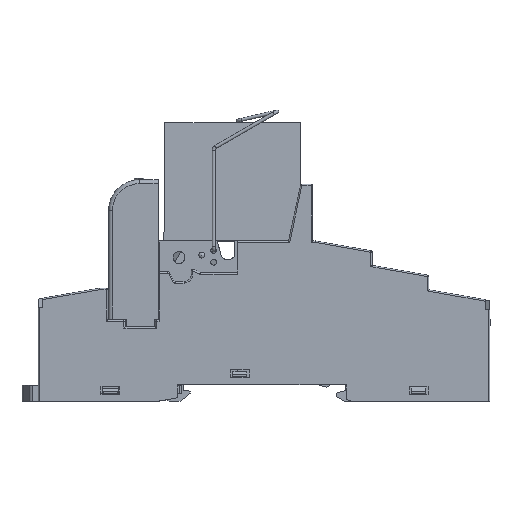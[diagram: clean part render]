
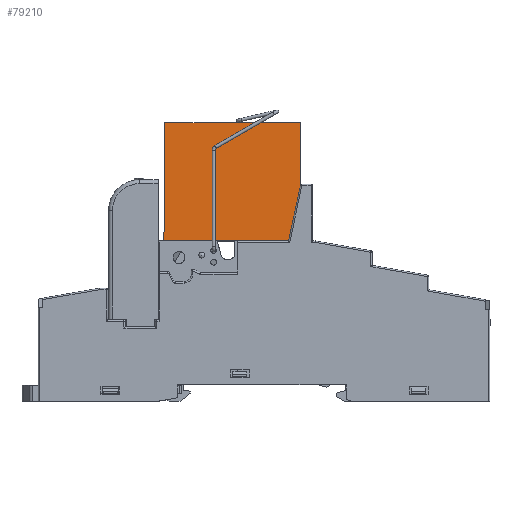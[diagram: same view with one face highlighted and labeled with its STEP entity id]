
A CAD part, top view. The second image highlights one B-rep face of the part: STEP entity #79210.
In plain terms, the highlighted planar face has unit normal (0, 0.009, 1) as drawn and (0, -1, -0.009) by its records, which use the part's own axes.
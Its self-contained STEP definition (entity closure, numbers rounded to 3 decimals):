
#7188=LINE('',#115651,#14363);
#7196=LINE('',#115671,#14371);
#7197=LINE('',#115673,#14372);
#7198=LINE('',#115675,#14373);
#14363=VECTOR('',#98223,1000.);
#14371=VECTOR('',#98239,1000.);
#14372=VECTOR('',#98242,1000.);
#14373=VECTOR('',#98243,1000.);
#32488=ORIENTED_EDGE('',*,*,#41130,.T.);
#32489=ORIENTED_EDGE('',*,*,#41139,.F.);
#32490=ORIENTED_EDGE('',*,*,#41140,.T.);
#32491=ORIENTED_EDGE('',*,*,#41141,.F.);
#41130=EDGE_CURVE('',#46657,#46658,#7188,.T.);
#41139=EDGE_CURVE('',#46664,#46658,#7196,.T.);
#41140=EDGE_CURVE('',#46664,#46665,#7197,.T.);
#41141=EDGE_CURVE('',#46657,#46665,#7198,.T.);
#46657=VERTEX_POINT('',#115652);
#46658=VERTEX_POINT('',#115653);
#46664=VERTEX_POINT('',#115670);
#46665=VERTEX_POINT('',#115674);
#49886=EDGE_LOOP('',(#32488,#32489,#32490,#32491));
#53050=FACE_BOUND('',#49886,.T.);
#55382=PLANE('',#83277);
#79210=ADVANCED_FACE('',(#53050),#55382,.T.);
#83277=AXIS2_PLACEMENT_3D('',#115672,#98240,#98241);
#98223=DIRECTION('',(-1.,0.,0.));
#98239=DIRECTION('',(-0.009,-0.009,1.));
#98240=DIRECTION('',(0.,-1.,-0.009));
#98241=DIRECTION('',(-1.,0.,0.));
#98242=DIRECTION('',(1.,0.,0.));
#98243=DIRECTION('',(-0.009,0.009,-1.));
#115651=CARTESIAN_POINT('',(8.881,40.012,12.129));
#115652=CARTESIAN_POINT('',(8.881,40.012,12.129));
#115653=CARTESIAN_POINT('',(-20.119,40.012,12.129));
#115670=CARTESIAN_POINT('',(-19.9,40.23,-12.871));
#115671=CARTESIAN_POINT('',(-19.9,40.23,-12.871));
#115672=CARTESIAN_POINT('',(10.331,40.001,13.379));
#115673=CARTESIAN_POINT('',(-19.9,40.23,-12.871));
#115674=CARTESIAN_POINT('',(8.663,40.23,-12.871));
#115675=CARTESIAN_POINT('',(8.881,40.012,12.129));
